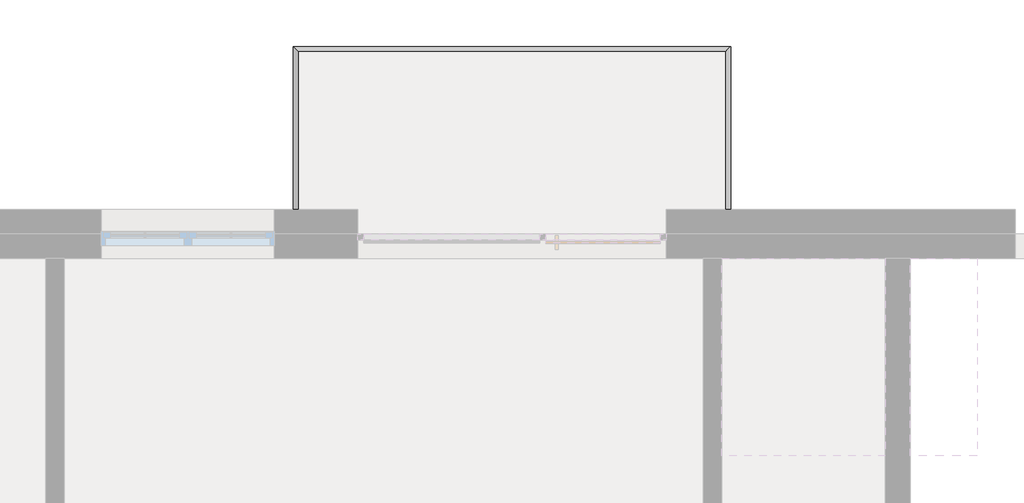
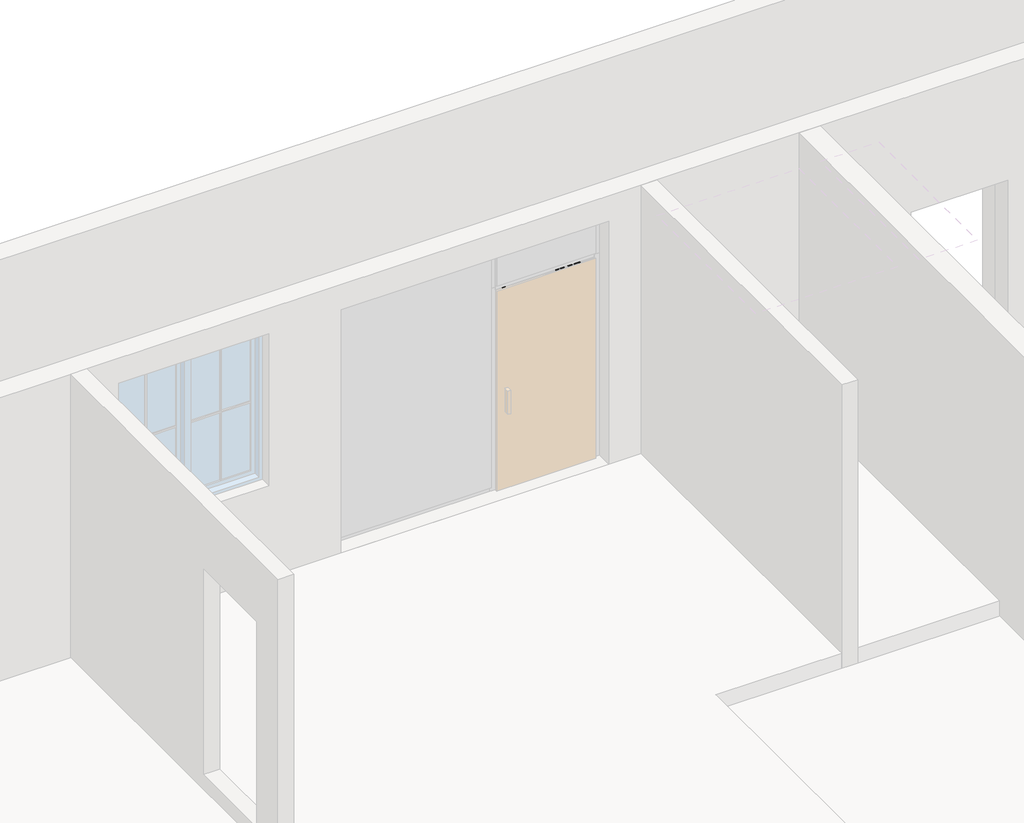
# One storey, part 4 of 6: 1 railing.
"""IFC4 building model written with IfcOpenShell, lengths in millimetres."""

from ifc_helpers import new_model, si_unit, point, frame, frame_2d, origin, place, context, project, spatial, circle_curve, ellipse_curve, trimmed, segment, composite_curve, outline, extrude, element, save
from ifc_brep_helpers import plane_surface, cylinder_surface, advanced_brep

model = new_model("IFC4")

# Units and contexts
model_context = context("Model", 3, world=origin())
ifc_project = project(units=[si_unit("LENGTHUNIT", "METRE", prefix="MILLI")], contexts=[model_context])

# Site, building, storey
site = spatial("IfcSite", under=ifc_project)
building = spatial("IfcBuilding", under=site)
storey = spatial("IfcBuildingStorey", under=building, Name="Podlaží 2", Elevation=3000.0)

# Railing
placement = place(None, origin())
element("IfcRailing", 1, ObjectType="1000 mm trubky", at=placement, inside=storey, context=model_context, shape_type="SolidModel", body=[
    advanced_brep(
    [(8745.0, 13900.0, 3980.0), (8705.0, 13900.0, 3980.0), (8745.0, 15220.0, 3980.0), (8705.0, 15180.0, 3980.0), (5205.0, 15220.0, 3980.0), (5245.0, 15180.0, 3980.0), (5205.0, 13900.0, 3980.0), (5245.0, 13900.0, 3980.0)],
    [
        (0, 1, circle_curve(frame((8725.0, 13900.0, 3980.0), z_axis=(0.0, -1.0, 0.0), x_axis=(-1.0, 0.0, 0.0)), 20.0)),
        (1, 0, circle_curve(frame((8725.0, 13900.0, 3980.0), z_axis=(0.0, -1.0, 0.0), x_axis=(-1.0, 0.0, 0.0)), 20.0)),
        (0, 2),
        (2, 3, ellipse_curve(frame((8725.0, 15200.0, 3980.0), z_axis=(0.7071067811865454, -0.7071067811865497, 0.0), x_axis=(-0.7071067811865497, -0.7071067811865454, 0.0)), 28.2842712, 20.0)),
        (3, 1),
        (3, 2, ellipse_curve(frame((8725.0, 15200.0, 3980.0), z_axis=(0.7071067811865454, -0.7071067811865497, 0.0), x_axis=(-0.7071067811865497, -0.7071067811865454, 0.0)), 28.2842712, 20.0)),
        (2, 4),
        (4, 5, ellipse_curve(frame((5225.0, 15200.0, 3980.0), z_axis=(0.7071067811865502, 0.7071067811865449, 0.0), x_axis=(0.7071067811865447, -0.7071067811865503, 0.0)), 28.2842712, 20.0)),
        (5, 3),
        (5, 4, ellipse_curve(frame((5225.0, 15200.0, 3980.0), z_axis=(0.7071067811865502, 0.7071067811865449, 0.0), x_axis=(0.7071067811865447, -0.7071067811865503, 0.0)), 28.2842712, 20.0)),
        (6, 7, circle_curve(frame((5225.0, 13900.0, 3980.0), z_axis=(0.0, -1.0, 0.0), x_axis=(1.0, 0.0, 0.0)), 20.0)),
        (7, 6, circle_curve(frame((5225.0, 13900.0, 3980.0), z_axis=(0.0, -1.0, 0.0), x_axis=(1.0, 0.0, 0.0)), 20.0)),
        (4, 6),
        (7, 5),
    ],
    [
        plane_surface(frame((8725.0, 13900.0, 4000.0), z_axis=(0.0, -1.0, 0.0), x_axis=(0.0, 0.0, 1.0))),
        cylinder_surface(frame((8725.0, 13900.0, 3980.0), z_axis=(0.0, -1.0, 0.0), x_axis=(-1.0, 0.0, 0.0)), 20.0),
        cylinder_surface(frame((8725.0, 15200.0, 3980.0), z_axis=(1.0, 0.0, 0.0), x_axis=(0.0, -1.0, 0.0)), 20.0),
        plane_surface(frame((5225.0, 13900.0, 4000.0), z_axis=(0.0, -1.0, 0.0), x_axis=(0.0, 0.0, -1.0))),
        cylinder_surface(frame((5225.0, 15200.0, 3980.0), z_axis=(0.0, 1.0, 0.0), x_axis=(1.0, 0.0, 0.0)), 20.0),
    ],
    [
        (0, [[1, 2]]),
        (1, [[-1, 3, 4, 5]]),
        (1, [[-2, -5, 6, -3]]),
        (2, [[-4, 7, 8, 9]]),
        (2, [[-6, -9, 10, -7]]),
        (3, [[11, 12]]),
        (4, [[-8, 13, -12, 14]]),
        (4, [[-10, -14, -11, -13]]),
    ],
),
    advanced_brep(
    [(8710.0, 13900.0, 3885.0), (8740.0, 13900.0, 3885.0), (8710.0, 15185.0, 3885.0), (8740.0, 15215.0, 3885.0), (5240.0, 15185.0, 3885.0), (5210.0, 15215.0, 3885.0), (5240.0, 13900.0, 3885.0), (5210.0, 13900.0, 3885.0)],
    [
        (0, 1, circle_curve(frame((8725.0, 13900.0, 3885.0), z_axis=(0.0, -1.0, 0.0), x_axis=(1.0, 0.0, 0.0)), 15.0)),
        (1, 0, circle_curve(frame((8725.0, 13900.0, 3885.0), z_axis=(0.0, -1.0, 0.0), x_axis=(1.0, 0.0, 0.0)), 15.0)),
        (0, 2),
        (2, 3, ellipse_curve(frame((8725.0, 15200.0, 3885.0), z_axis=(0.7071067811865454, -0.7071067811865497, 0.0), x_axis=(-0.7071067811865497, -0.7071067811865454, 0.0)), 21.2132034, 15.0)),
        (3, 1),
        (3, 2, ellipse_curve(frame((8725.0, 15200.0, 3885.0), z_axis=(0.7071067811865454, -0.7071067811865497, 0.0), x_axis=(-0.7071067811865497, -0.7071067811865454, 0.0)), 21.2132034, 15.0)),
        (2, 4),
        (4, 5, ellipse_curve(frame((5225.0, 15200.0, 3885.0), z_axis=(0.7071067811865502, 0.7071067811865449, 0.0), x_axis=(0.7071067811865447, -0.7071067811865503, 0.0)), 21.2132034, 15.0)),
        (5, 3),
        (5, 4, ellipse_curve(frame((5225.0, 15200.0, 3885.0), z_axis=(0.7071067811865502, 0.7071067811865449, 0.0), x_axis=(0.7071067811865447, -0.7071067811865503, 0.0)), 21.2132034, 15.0)),
        (6, 7, circle_curve(frame((5225.0, 13900.0, 3885.0), z_axis=(0.0, -1.0, 0.0), x_axis=(-1.0, 0.0, 0.0)), 15.0)),
        (7, 6, circle_curve(frame((5225.0, 13900.0, 3885.0), z_axis=(0.0, -1.0, 0.0), x_axis=(-1.0, 0.0, 0.0)), 15.0)),
        (4, 6),
        (7, 5),
    ],
    [
        plane_surface(frame((8725.0, 13900.0, 3900.0), z_axis=(0.0, -1.0, 0.0), x_axis=(0.0, 0.0, 1.0))),
        cylinder_surface(frame((8725.0, 13900.0, 3885.0), z_axis=(0.0, -1.0, 0.0), x_axis=(1.0, 0.0, 0.0)), 15.0),
        cylinder_surface(frame((8725.0, 15200.0, 3885.0), z_axis=(1.0, 0.0, 0.0), x_axis=(0.0, 1.0, 0.0)), 15.0),
        plane_surface(frame((5225.0, 13900.0, 3900.0), z_axis=(0.0, -1.0, 0.0), x_axis=(0.0, 0.0, -1.0))),
        cylinder_surface(frame((5225.0, 15200.0, 3885.0), z_axis=(0.0, 1.0, 0.0), x_axis=(-1.0, 0.0, 0.0)), 15.0),
    ],
    [
        (0, [[1, 2]]),
        (1, [[-1, 3, 4, 5]]),
        (1, [[-2, -5, 6, -3]]),
        (2, [[-4, 7, 8, 9]]),
        (2, [[-6, -9, 10, -7]]),
        (3, [[11, 12]]),
        (4, [[-8, 13, -12, 14]]),
        (4, [[-10, -14, -11, -13]]),
    ],
),
    advanced_brep(
    [(8710.0, 13900.0, 3785.0), (8740.0, 13900.0, 3785.0), (8710.0, 15185.0, 3785.0), (8740.0, 15215.0, 3785.0), (5240.0, 15185.0, 3785.0), (5210.0, 15215.0, 3785.0), (5240.0, 13900.0, 3785.0), (5210.0, 13900.0, 3785.0)],
    [
        (0, 1, circle_curve(frame((8725.0, 13900.0, 3785.0), z_axis=(0.0, -1.0, 0.0), x_axis=(1.0, 0.0, 0.0)), 15.0)),
        (1, 0, circle_curve(frame((8725.0, 13900.0, 3785.0), z_axis=(0.0, -1.0, 0.0), x_axis=(1.0, 0.0, 0.0)), 15.0)),
        (0, 2),
        (2, 3, ellipse_curve(frame((8725.0, 15200.0, 3785.0), z_axis=(0.7071067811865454, -0.7071067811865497, 0.0), x_axis=(-0.7071067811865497, -0.7071067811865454, 0.0)), 21.2132034, 15.0)),
        (3, 1),
        (3, 2, ellipse_curve(frame((8725.0, 15200.0, 3785.0), z_axis=(0.7071067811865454, -0.7071067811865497, 0.0), x_axis=(-0.7071067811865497, -0.7071067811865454, 0.0)), 21.2132034, 15.0)),
        (2, 4),
        (4, 5, ellipse_curve(frame((5225.0, 15200.0, 3785.0), z_axis=(0.7071067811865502, 0.7071067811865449, 0.0), x_axis=(0.7071067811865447, -0.7071067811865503, 0.0)), 21.2132034, 15.0)),
        (5, 3),
        (5, 4, ellipse_curve(frame((5225.0, 15200.0, 3785.0), z_axis=(0.7071067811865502, 0.7071067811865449, 0.0), x_axis=(0.7071067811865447, -0.7071067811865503, 0.0)), 21.2132034, 15.0)),
        (6, 7, circle_curve(frame((5225.0, 13900.0, 3785.0), z_axis=(0.0, -1.0, 0.0), x_axis=(-1.0, 0.0, 0.0)), 15.0)),
        (7, 6, circle_curve(frame((5225.0, 13900.0, 3785.0), z_axis=(0.0, -1.0, 0.0), x_axis=(-1.0, 0.0, 0.0)), 15.0)),
        (4, 6),
        (7, 5),
    ],
    [
        plane_surface(frame((8725.0, 13900.0, 3800.0), z_axis=(0.0, -1.0, 0.0), x_axis=(0.0, 0.0, 1.0))),
        cylinder_surface(frame((8725.0, 13900.0, 3785.0), z_axis=(0.0, -1.0, 0.0), x_axis=(1.0, 0.0, 0.0)), 15.0),
        cylinder_surface(frame((8725.0, 15200.0, 3785.0), z_axis=(1.0, 0.0, 0.0), x_axis=(0.0, 1.0, 0.0)), 15.0),
        plane_surface(frame((5225.0, 13900.0, 3800.0), z_axis=(0.0, -1.0, 0.0), x_axis=(0.0, 0.0, -1.0))),
        cylinder_surface(frame((5225.0, 15200.0, 3785.0), z_axis=(0.0, 1.0, 0.0), x_axis=(-1.0, 0.0, 0.0)), 15.0),
    ],
    [
        (0, [[1, 2]]),
        (1, [[-1, 3, 4, 5]]),
        (1, [[-2, -5, 6, -3]]),
        (2, [[-4, 7, 8, 9]]),
        (2, [[-6, -9, 10, -7]]),
        (3, [[11, 12]]),
        (4, [[-8, 13, -12, 14]]),
        (4, [[-10, -14, -11, -13]]),
    ],
),
    advanced_brep(
    [(8710.0, 13900.0, 3685.0), (8740.0, 13900.0, 3685.0), (8710.0, 15185.0, 3685.0), (8740.0, 15215.0, 3685.0), (5240.0, 15185.0, 3685.0), (5210.0, 15215.0, 3685.0), (5240.0, 13900.0, 3685.0), (5210.0, 13900.0, 3685.0)],
    [
        (0, 1, circle_curve(frame((8725.0, 13900.0, 3685.0), z_axis=(0.0, -1.0, 0.0), x_axis=(1.0, 0.0, 0.0)), 15.0)),
        (1, 0, circle_curve(frame((8725.0, 13900.0, 3685.0), z_axis=(0.0, -1.0, 0.0), x_axis=(1.0, 0.0, 0.0)), 15.0)),
        (0, 2),
        (2, 3, ellipse_curve(frame((8725.0, 15200.0, 3685.0), z_axis=(0.7071067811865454, -0.7071067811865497, 0.0), x_axis=(-0.7071067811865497, -0.7071067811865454, 0.0)), 21.2132034, 15.0)),
        (3, 1),
        (3, 2, ellipse_curve(frame((8725.0, 15200.0, 3685.0), z_axis=(0.7071067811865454, -0.7071067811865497, 0.0), x_axis=(-0.7071067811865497, -0.7071067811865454, 0.0)), 21.2132034, 15.0)),
        (2, 4),
        (4, 5, ellipse_curve(frame((5225.0, 15200.0, 3685.0), z_axis=(0.7071067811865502, 0.7071067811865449, 0.0), x_axis=(0.7071067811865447, -0.7071067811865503, 0.0)), 21.2132034, 15.0)),
        (5, 3),
        (5, 4, ellipse_curve(frame((5225.0, 15200.0, 3685.0), z_axis=(0.7071067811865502, 0.7071067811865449, 0.0), x_axis=(0.7071067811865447, -0.7071067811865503, 0.0)), 21.2132034, 15.0)),
        (6, 7, circle_curve(frame((5225.0, 13900.0, 3685.0), z_axis=(0.0, -1.0, 0.0), x_axis=(-1.0, 0.0, 0.0)), 15.0)),
        (7, 6, circle_curve(frame((5225.0, 13900.0, 3685.0), z_axis=(0.0, -1.0, 0.0), x_axis=(-1.0, 0.0, 0.0)), 15.0)),
        (4, 6),
        (7, 5),
    ],
    [
        plane_surface(frame((8725.0, 13900.0, 3700.0), z_axis=(0.0, -1.0, 0.0), x_axis=(0.0, 0.0, 1.0))),
        cylinder_surface(frame((8725.0, 13900.0, 3685.0), z_axis=(0.0, -1.0, 0.0), x_axis=(1.0, 0.0, 0.0)), 15.0),
        cylinder_surface(frame((8725.0, 15200.0, 3685.0), z_axis=(1.0, 0.0, 0.0), x_axis=(0.0, 1.0, 0.0)), 15.0),
        plane_surface(frame((5225.0, 13900.0, 3700.0), z_axis=(0.0, -1.0, 0.0), x_axis=(0.0, 0.0, -1.0))),
        cylinder_surface(frame((5225.0, 15200.0, 3685.0), z_axis=(0.0, 1.0, 0.0), x_axis=(-1.0, 0.0, 0.0)), 15.0),
    ],
    [
        (0, [[1, 2]]),
        (1, [[-1, 3, 4, 5]]),
        (1, [[-2, -5, 6, -3]]),
        (2, [[-4, 7, 8, 9]]),
        (2, [[-6, -9, 10, -7]]),
        (3, [[11, 12]]),
        (4, [[-8, 13, -12, 14]]),
        (4, [[-10, -14, -11, -13]]),
    ],
),
    advanced_brep(
    [(8710.0, 13900.0, 3585.0), (8740.0, 13900.0, 3585.0), (8710.0, 15185.0, 3585.0), (8740.0, 15215.0, 3585.0), (5240.0, 15185.0, 3585.0), (5210.0, 15215.0, 3585.0), (5240.0, 13900.0, 3585.0), (5210.0, 13900.0, 3585.0)],
    [
        (0, 1, circle_curve(frame((8725.0, 13900.0, 3585.0), z_axis=(0.0, -1.0, 0.0), x_axis=(1.0, 0.0, 0.0)), 15.0)),
        (1, 0, circle_curve(frame((8725.0, 13900.0, 3585.0), z_axis=(0.0, -1.0, 0.0), x_axis=(1.0, 0.0, 0.0)), 15.0)),
        (0, 2),
        (2, 3, ellipse_curve(frame((8725.0, 15200.0, 3585.0), z_axis=(0.7071067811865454, -0.7071067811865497, 0.0), x_axis=(-0.7071067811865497, -0.7071067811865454, 0.0)), 21.2132034, 15.0)),
        (3, 1),
        (3, 2, ellipse_curve(frame((8725.0, 15200.0, 3585.0), z_axis=(0.7071067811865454, -0.7071067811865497, 0.0), x_axis=(-0.7071067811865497, -0.7071067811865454, 0.0)), 21.2132034, 15.0)),
        (2, 4),
        (4, 5, ellipse_curve(frame((5225.0, 15200.0, 3585.0), z_axis=(0.7071067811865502, 0.7071067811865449, 0.0), x_axis=(0.7071067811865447, -0.7071067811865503, 0.0)), 21.2132034, 15.0)),
        (5, 3),
        (5, 4, ellipse_curve(frame((5225.0, 15200.0, 3585.0), z_axis=(0.7071067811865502, 0.7071067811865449, 0.0), x_axis=(0.7071067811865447, -0.7071067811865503, 0.0)), 21.2132034, 15.0)),
        (6, 7, circle_curve(frame((5225.0, 13900.0, 3585.0), z_axis=(0.0, -1.0, 0.0), x_axis=(-1.0, 0.0, 0.0)), 15.0)),
        (7, 6, circle_curve(frame((5225.0, 13900.0, 3585.0), z_axis=(0.0, -1.0, 0.0), x_axis=(-1.0, 0.0, 0.0)), 15.0)),
        (4, 6),
        (7, 5),
    ],
    [
        plane_surface(frame((8725.0, 13900.0, 3600.0), z_axis=(0.0, -1.0, 0.0), x_axis=(0.0, 0.0, 1.0))),
        cylinder_surface(frame((8725.0, 13900.0, 3585.0), z_axis=(0.0, -1.0, 0.0), x_axis=(1.0, 0.0, 0.0)), 15.0),
        cylinder_surface(frame((8725.0, 15200.0, 3585.0), z_axis=(1.0, 0.0, 0.0), x_axis=(0.0, 1.0, 0.0)), 15.0),
        plane_surface(frame((5225.0, 13900.0, 3600.0), z_axis=(0.0, -1.0, 0.0), x_axis=(0.0, 0.0, -1.0))),
        cylinder_surface(frame((5225.0, 15200.0, 3585.0), z_axis=(0.0, 1.0, 0.0), x_axis=(-1.0, 0.0, 0.0)), 15.0),
    ],
    [
        (0, [[1, 2]]),
        (1, [[-1, 3, 4, 5]]),
        (1, [[-2, -5, 6, -3]]),
        (2, [[-4, 7, 8, 9]]),
        (2, [[-6, -9, 10, -7]]),
        (3, [[11, 12]]),
        (4, [[-8, 13, -12, 14]]),
        (4, [[-10, -14, -11, -13]]),
    ],
),
    advanced_brep(
    [(8710.0, 13900.0, 3485.0), (8740.0, 13900.0, 3485.0), (8710.0, 15185.0, 3485.0), (8740.0, 15215.0, 3485.0), (5240.0, 15185.0, 3485.0), (5210.0, 15215.0, 3485.0), (5240.0, 13900.0, 3485.0), (5210.0, 13900.0, 3485.0)],
    [
        (0, 1, circle_curve(frame((8725.0, 13900.0, 3485.0), z_axis=(0.0, -1.0, 0.0), x_axis=(1.0, 0.0, 0.0)), 15.0)),
        (1, 0, circle_curve(frame((8725.0, 13900.0, 3485.0), z_axis=(0.0, -1.0, 0.0), x_axis=(1.0, 0.0, 0.0)), 15.0)),
        (0, 2),
        (2, 3, ellipse_curve(frame((8725.0, 15200.0, 3485.0), z_axis=(0.7071067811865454, -0.7071067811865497, 0.0), x_axis=(-0.7071067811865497, -0.7071067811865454, 0.0)), 21.2132034, 15.0)),
        (3, 1),
        (3, 2, ellipse_curve(frame((8725.0, 15200.0, 3485.0), z_axis=(0.7071067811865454, -0.7071067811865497, 0.0), x_axis=(-0.7071067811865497, -0.7071067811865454, 0.0)), 21.2132034, 15.0)),
        (2, 4),
        (4, 5, ellipse_curve(frame((5225.0, 15200.0, 3485.0), z_axis=(0.7071067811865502, 0.7071067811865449, 0.0), x_axis=(0.7071067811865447, -0.7071067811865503, 0.0)), 21.2132034, 15.0)),
        (5, 3),
        (5, 4, ellipse_curve(frame((5225.0, 15200.0, 3485.0), z_axis=(0.7071067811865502, 0.7071067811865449, 0.0), x_axis=(0.7071067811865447, -0.7071067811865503, 0.0)), 21.2132034, 15.0)),
        (6, 7, circle_curve(frame((5225.0, 13900.0, 3485.0), z_axis=(0.0, -1.0, 0.0), x_axis=(-1.0, 0.0, 0.0)), 15.0)),
        (7, 6, circle_curve(frame((5225.0, 13900.0, 3485.0), z_axis=(0.0, -1.0, 0.0), x_axis=(-1.0, 0.0, 0.0)), 15.0)),
        (4, 6),
        (7, 5),
    ],
    [
        plane_surface(frame((8725.0, 13900.0, 3500.0), z_axis=(0.0, -1.0, 0.0), x_axis=(0.0, 0.0, 1.0))),
        cylinder_surface(frame((8725.0, 13900.0, 3485.0), z_axis=(0.0, -1.0, 0.0), x_axis=(1.0, 0.0, 0.0)), 15.0),
        cylinder_surface(frame((8725.0, 15200.0, 3485.0), z_axis=(1.0, 0.0, 0.0), x_axis=(0.0, 1.0, 0.0)), 15.0),
        plane_surface(frame((5225.0, 13900.0, 3500.0), z_axis=(0.0, -1.0, 0.0), x_axis=(0.0, 0.0, -1.0))),
        cylinder_surface(frame((5225.0, 15200.0, 3485.0), z_axis=(0.0, 1.0, 0.0), x_axis=(-1.0, 0.0, 0.0)), 15.0),
    ],
    [
        (0, [[1, 2]]),
        (1, [[-1, 3, 4, 5]]),
        (1, [[-2, -5, 6, -3]]),
        (2, [[-4, 7, 8, 9]]),
        (2, [[-6, -9, 10, -7]]),
        (3, [[11, 12]]),
        (4, [[-8, 13, -12, 14]]),
        (4, [[-10, -14, -11, -13]]),
    ],
),
    advanced_brep(
    [(8710.0, 13900.0, 3385.0), (8740.0, 13900.0, 3385.0), (8710.0, 15185.0, 3385.0), (8740.0, 15215.0, 3385.0), (5240.0, 15185.0, 3385.0), (5210.0, 15215.0, 3385.0), (5240.0, 13900.0, 3385.0), (5210.0, 13900.0, 3385.0)],
    [
        (0, 1, circle_curve(frame((8725.0, 13900.0, 3385.0), z_axis=(0.0, -1.0, 0.0), x_axis=(1.0, 0.0, 0.0)), 15.0)),
        (1, 0, circle_curve(frame((8725.0, 13900.0, 3385.0), z_axis=(0.0, -1.0, 0.0), x_axis=(1.0, 0.0, 0.0)), 15.0)),
        (0, 2),
        (2, 3, ellipse_curve(frame((8725.0, 15200.0, 3385.0), z_axis=(0.7071067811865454, -0.7071067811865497, 0.0), x_axis=(-0.7071067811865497, -0.7071067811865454, 0.0)), 21.2132034, 15.0)),
        (3, 1),
        (3, 2, ellipse_curve(frame((8725.0, 15200.0, 3385.0), z_axis=(0.7071067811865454, -0.7071067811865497, 0.0), x_axis=(-0.7071067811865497, -0.7071067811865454, 0.0)), 21.2132034, 15.0)),
        (2, 4),
        (4, 5, ellipse_curve(frame((5225.0, 15200.0, 3385.0), z_axis=(0.7071067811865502, 0.7071067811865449, 0.0), x_axis=(0.7071067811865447, -0.7071067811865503, 0.0)), 21.2132034, 15.0)),
        (5, 3),
        (5, 4, ellipse_curve(frame((5225.0, 15200.0, 3385.0), z_axis=(0.7071067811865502, 0.7071067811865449, 0.0), x_axis=(0.7071067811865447, -0.7071067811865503, 0.0)), 21.2132034, 15.0)),
        (6, 7, circle_curve(frame((5225.0, 13900.0, 3385.0), z_axis=(0.0, -1.0, 0.0), x_axis=(-1.0, 0.0, 0.0)), 15.0)),
        (7, 6, circle_curve(frame((5225.0, 13900.0, 3385.0), z_axis=(0.0, -1.0, 0.0), x_axis=(-1.0, 0.0, 0.0)), 15.0)),
        (4, 6),
        (7, 5),
    ],
    [
        plane_surface(frame((8725.0, 13900.0, 3400.0), z_axis=(0.0, -1.0, 0.0), x_axis=(0.0, 0.0, 1.0))),
        cylinder_surface(frame((8725.0, 13900.0, 3385.0), z_axis=(0.0, -1.0, 0.0), x_axis=(1.0, 0.0, 0.0)), 15.0),
        cylinder_surface(frame((8725.0, 15200.0, 3385.0), z_axis=(1.0, 0.0, 0.0), x_axis=(0.0, 1.0, 0.0)), 15.0),
        plane_surface(frame((5225.0, 13900.0, 3400.0), z_axis=(0.0, -1.0, 0.0), x_axis=(0.0, 0.0, -1.0))),
        cylinder_surface(frame((5225.0, 15200.0, 3385.0), z_axis=(0.0, 1.0, 0.0), x_axis=(-1.0, 0.0, 0.0)), 15.0),
    ],
    [
        (0, [[1, 2]]),
        (1, [[-1, 3, 4, 5]]),
        (1, [[-2, -5, 6, -3]]),
        (2, [[-4, 7, 8, 9]]),
        (2, [[-6, -9, 10, -7]]),
        (3, [[11, 12]]),
        (4, [[-8, 13, -12, 14]]),
        (4, [[-10, -14, -11, -13]]),
    ],
),
    advanced_brep(
    [(8710.0, 13900.0, 3285.0), (8740.0, 13900.0, 3285.0), (8710.0, 15185.0, 3285.0), (8740.0, 15215.0, 3285.0), (5240.0, 15185.0, 3285.0), (5210.0, 15215.0, 3285.0), (5240.0, 13900.0, 3285.0), (5210.0, 13900.0, 3285.0)],
    [
        (0, 1, circle_curve(frame((8725.0, 13900.0, 3285.0), z_axis=(0.0, -1.0, 0.0), x_axis=(1.0, 0.0, 0.0)), 15.0)),
        (1, 0, circle_curve(frame((8725.0, 13900.0, 3285.0), z_axis=(0.0, -1.0, 0.0), x_axis=(1.0, 0.0, 0.0)), 15.0)),
        (0, 2),
        (2, 3, ellipse_curve(frame((8725.0, 15200.0, 3285.0), z_axis=(0.7071067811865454, -0.7071067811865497, 0.0), x_axis=(-0.7071067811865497, -0.7071067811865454, 0.0)), 21.2132034, 15.0)),
        (3, 1),
        (3, 2, ellipse_curve(frame((8725.0, 15200.0, 3285.0), z_axis=(0.7071067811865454, -0.7071067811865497, 0.0), x_axis=(-0.7071067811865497, -0.7071067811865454, 0.0)), 21.2132034, 15.0)),
        (2, 4),
        (4, 5, ellipse_curve(frame((5225.0, 15200.0, 3285.0), z_axis=(0.7071067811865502, 0.7071067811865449, 0.0), x_axis=(0.7071067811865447, -0.7071067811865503, 0.0)), 21.2132034, 15.0)),
        (5, 3),
        (5, 4, ellipse_curve(frame((5225.0, 15200.0, 3285.0), z_axis=(0.7071067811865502, 0.7071067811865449, 0.0), x_axis=(0.7071067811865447, -0.7071067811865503, 0.0)), 21.2132034, 15.0)),
        (6, 7, circle_curve(frame((5225.0, 13900.0, 3285.0), z_axis=(0.0, -1.0, 0.0), x_axis=(-1.0, 0.0, 0.0)), 15.0)),
        (7, 6, circle_curve(frame((5225.0, 13900.0, 3285.0), z_axis=(0.0, -1.0, 0.0), x_axis=(-1.0, 0.0, 0.0)), 15.0)),
        (4, 6),
        (7, 5),
    ],
    [
        plane_surface(frame((8725.0, 13900.0, 3300.0), z_axis=(0.0, -1.0, 0.0), x_axis=(0.0, 0.0, 1.0))),
        cylinder_surface(frame((8725.0, 13900.0, 3285.0), z_axis=(0.0, -1.0, 0.0), x_axis=(1.0, 0.0, 0.0)), 15.0),
        cylinder_surface(frame((8725.0, 15200.0, 3285.0), z_axis=(1.0, 0.0, 0.0), x_axis=(0.0, 1.0, 0.0)), 15.0),
        plane_surface(frame((5225.0, 13900.0, 3300.0), z_axis=(0.0, -1.0, 0.0), x_axis=(0.0, 0.0, -1.0))),
        cylinder_surface(frame((5225.0, 15200.0, 3285.0), z_axis=(0.0, 1.0, 0.0), x_axis=(-1.0, 0.0, 0.0)), 15.0),
    ],
    [
        (0, [[1, 2]]),
        (1, [[-1, 3, 4, 5]]),
        (1, [[-2, -5, 6, -3]]),
        (2, [[-4, 7, 8, 9]]),
        (2, [[-6, -9, 10, -7]]),
        (3, [[11, 12]]),
        (4, [[-8, 13, -12, 14]]),
        (4, [[-10, -14, -11, -13]]),
    ],
),
    extrude(outline(composite_curve([segment(trimmed(circle_curve(frame_2d((5225.0, 14200.0)), 12.5), [point((5237.5, 14200.0))], [point((5212.5, 14200.0))], False, "CARTESIAN"), True, "CONTINUOUS"), segment(trimmed(circle_curve(frame_2d((5225.0, 14200.0)), 12.5), [point((5212.5, 14200.0))], [point((5237.5, 14200.0))], False, "CARTESIAN"), True, "CONTINUOUS")], self_intersect=False)), frame((0.0, 0.0, 3000.0), z_axis=(0.0, 0.0, 1.0), x_axis=(1.0, 0.0, 0.0)), (0.0, 0.0, 1.0), 960.0),
    extrude(outline(composite_curve([segment(trimmed(circle_curve(frame_2d((5225.0, 14700.0)), 12.5), [point((5237.5, 14700.0))], [point((5212.5, 14700.0))], False, "CARTESIAN"), True, "CONTINUOUS"), segment(trimmed(circle_curve(frame_2d((5225.0, 14700.0)), 12.5), [point((5212.5, 14700.0))], [point((5237.5, 14700.0))], False, "CARTESIAN"), True, "CONTINUOUS")], self_intersect=False)), frame((0.0, 0.0, 3000.0), z_axis=(0.0, 0.0, 1.0), x_axis=(1.0, 0.0, 0.0)), (0.0, 0.0, 1.0), 960.0),
    extrude(outline(composite_curve([segment(trimmed(circle_curve(frame_2d((5725.0, 15200.0)), 12.5), [point((5725.0, 15187.5))], [point((5725.0, 15212.5))], False, "CARTESIAN"), True, "CONTINUOUS"), segment(trimmed(circle_curve(frame_2d((5725.0, 15200.0)), 12.5), [point((5725.0, 15212.5))], [point((5725.0, 15187.5))], False, "CARTESIAN"), True, "CONTINUOUS")], self_intersect=False)), frame((0.0, 0.0, 3000.0), z_axis=(0.0, 0.0, 1.0), x_axis=(1.0, 0.0, 0.0)), (0.0, 0.0, 1.0), 960.0),
    extrude(outline(composite_curve([segment(trimmed(circle_curve(frame_2d((6225.0, 15200.0)), 12.5), [point((6225.0, 15187.5))], [point((6225.0, 15212.5))], False, "CARTESIAN"), True, "CONTINUOUS"), segment(trimmed(circle_curve(frame_2d((6225.0, 15200.0)), 12.5), [point((6225.0, 15212.5))], [point((6225.0, 15187.5))], False, "CARTESIAN"), True, "CONTINUOUS")], self_intersect=False)), frame((0.0, 0.0, 3000.0), z_axis=(0.0, 0.0, 1.0), x_axis=(1.0, 0.0, 0.0)), (0.0, 0.0, 1.0), 960.0),
    extrude(outline(composite_curve([segment(trimmed(circle_curve(frame_2d((6725.0, 15200.0)), 12.5), [point((6725.0, 15187.5))], [point((6725.0, 15212.5))], False, "CARTESIAN"), True, "CONTINUOUS"), segment(trimmed(circle_curve(frame_2d((6725.0, 15200.0)), 12.5), [point((6725.0, 15212.5))], [point((6725.0, 15187.5))], False, "CARTESIAN"), True, "CONTINUOUS")], self_intersect=False)), frame((0.0, 0.0, 3000.0), z_axis=(0.0, 0.0, 1.0), x_axis=(1.0, 0.0, 0.0)), (0.0, 0.0, 1.0), 960.0),
    extrude(outline(composite_curve([segment(trimmed(circle_curve(frame_2d((7225.0, 15200.0)), 12.5), [point((7225.0, 15187.5))], [point((7225.0, 15212.5))], False, "CARTESIAN"), True, "CONTINUOUS"), segment(trimmed(circle_curve(frame_2d((7225.0, 15200.0)), 12.5), [point((7225.0, 15212.5))], [point((7225.0, 15187.5))], False, "CARTESIAN"), True, "CONTINUOUS")], self_intersect=False)), frame((0.0, 0.0, 3000.0), z_axis=(0.0, 0.0, 1.0), x_axis=(1.0, 0.0, 0.0)), (0.0, 0.0, 1.0), 960.0),
    extrude(outline(composite_curve([segment(trimmed(circle_curve(frame_2d((7725.0, 15200.0)), 12.5), [point((7725.0, 15187.5))], [point((7725.0, 15212.5))], False, "CARTESIAN"), True, "CONTINUOUS"), segment(trimmed(circle_curve(frame_2d((7725.0, 15200.0)), 12.5), [point((7725.0, 15212.5))], [point((7725.0, 15187.5))], False, "CARTESIAN"), True, "CONTINUOUS")], self_intersect=False)), frame((0.0, 0.0, 3000.0), z_axis=(0.0, 0.0, 1.0), x_axis=(1.0, 0.0, 0.0)), (0.0, 0.0, 1.0), 960.0),
    extrude(outline(composite_curve([segment(trimmed(circle_curve(frame_2d((8225.0, 15200.0)), 12.5), [point((8225.0, 15187.5))], [point((8225.0, 15212.5))], False, "CARTESIAN"), True, "CONTINUOUS"), segment(trimmed(circle_curve(frame_2d((8225.0, 15200.0)), 12.5), [point((8225.0, 15212.5))], [point((8225.0, 15187.5))], False, "CARTESIAN"), True, "CONTINUOUS")], self_intersect=False)), frame((0.0, 0.0, 3000.0), z_axis=(0.0, 0.0, 1.0), x_axis=(1.0, 0.0, 0.0)), (0.0, 0.0, 1.0), 960.0),
    extrude(outline(composite_curve([segment(trimmed(circle_curve(frame_2d((8725.0, 14900.0)), 12.5), [point((8712.5, 14900.0))], [point((8737.5, 14900.0))], False, "CARTESIAN"), True, "CONTINUOUS"), segment(trimmed(circle_curve(frame_2d((8725.0, 14900.0)), 12.5), [point((8737.5, 14900.0))], [point((8712.5, 14900.0))], False, "CARTESIAN"), True, "CONTINUOUS")], self_intersect=False)), frame((0.0, 0.0, 3000.0), z_axis=(0.0, 0.0, 1.0), x_axis=(1.0, 0.0, 0.0)), (0.0, 0.0, 1.0), 960.0),
    extrude(outline(composite_curve([segment(trimmed(circle_curve(frame_2d((8725.0, 14400.0)), 12.5), [point((8712.5, 14400.0))], [point((8737.5, 14400.0))], False, "CARTESIAN"), True, "CONTINUOUS"), segment(trimmed(circle_curve(frame_2d((8725.0, 14400.0)), 12.5), [point((8737.5, 14400.0))], [point((8712.5, 14400.0))], False, "CARTESIAN"), True, "CONTINUOUS")], self_intersect=False)), frame((0.0, 0.0, 3000.0), z_axis=(0.0, 0.0, 1.0), x_axis=(1.0, 0.0, 0.0)), (0.0, 0.0, 1.0), 960.0),
    extrude(outline(composite_curve([segment(trimmed(circle_curve(frame_2d((5225.0, 15200.0)), 12.5), [point((5225.0, 15187.5))], [point((5225.0, 15212.5))], False, "CARTESIAN"), True, "CONTINUOUS"), segment(trimmed(circle_curve(frame_2d((5225.0, 15200.0)), 12.5), [point((5225.0, 15212.5))], [point((5225.0, 15187.5))], False, "CARTESIAN"), True, "CONTINUOUS")], self_intersect=False)), frame((0.0, 0.0, 3000.0), z_axis=(0.0, 0.0, 1.0), x_axis=(1.0, 0.0, 0.0)), (0.0, 0.0, 1.0), 960.0),
    extrude(outline(composite_curve([segment(trimmed(circle_curve(frame_2d((8725.0, 15200.0)), 12.5), [point((8712.5, 15200.0))], [point((8737.5, 15200.0))], False, "CARTESIAN"), True, "CONTINUOUS"), segment(trimmed(circle_curve(frame_2d((8725.0, 15200.0)), 12.5), [point((8737.5, 15200.0))], [point((8712.5, 15200.0))], False, "CARTESIAN"), True, "CONTINUOUS")], self_intersect=False)), frame((0.0, 0.0, 3000.0), z_axis=(0.0, 0.0, 1.0), x_axis=(1.0, 0.0, 0.0)), (0.0, 0.0, 1.0), 960.0),
    extrude(outline(composite_curve([segment(trimmed(circle_curve(frame_2d((5225.0, 13912.5)), 12.5), [point((5237.5, 13912.5))], [point((5212.5, 13912.5))], False, "CARTESIAN"), True, "CONTINUOUS"), segment(trimmed(circle_curve(frame_2d((5225.0, 13912.5)), 12.5), [point((5212.5, 13912.5))], [point((5237.5, 13912.5))], False, "CARTESIAN"), True, "CONTINUOUS")], self_intersect=False)), frame((0.0, 0.0, 3000.0), z_axis=(0.0, 0.0, 1.0), x_axis=(1.0, 0.0, 0.0)), (0.0, 0.0, 1.0), 960.0),
    extrude(outline(composite_curve([segment(trimmed(circle_curve(frame_2d((8725.0, 13912.5)), 12.5), [point((8712.5, 13912.5))], [point((8737.5, 13912.5))], False, "CARTESIAN"), True, "CONTINUOUS"), segment(trimmed(circle_curve(frame_2d((8725.0, 13912.5)), 12.5), [point((8737.5, 13912.5))], [point((8712.5, 13912.5))], False, "CARTESIAN"), True, "CONTINUOUS")], self_intersect=False)), frame((0.0, 0.0, 3000.0), z_axis=(0.0, 0.0, 1.0), x_axis=(1.0, 0.0, 0.0)), (0.0, 0.0, 1.0), 960.0),
])

save(model, "model.ifc")
